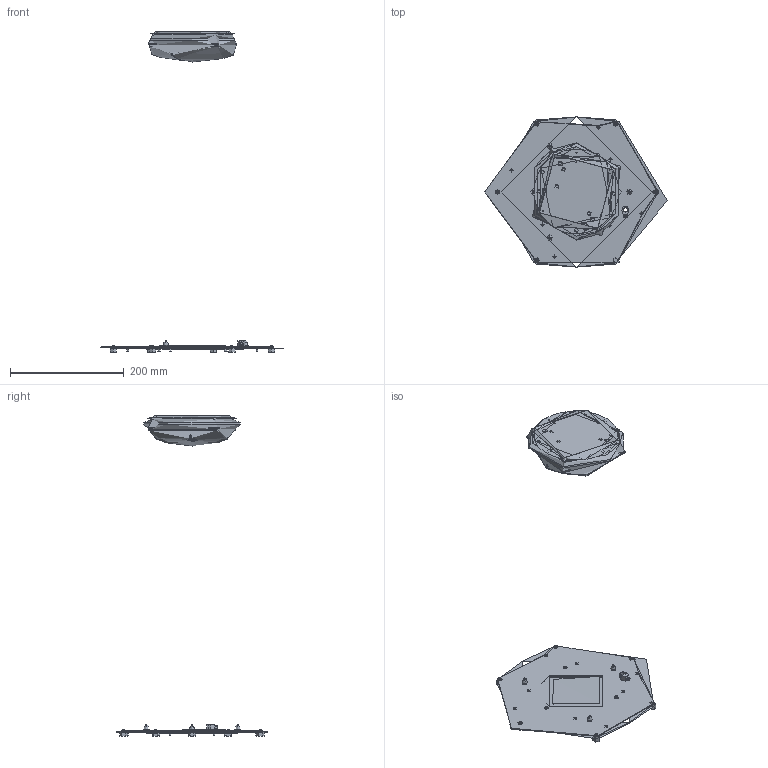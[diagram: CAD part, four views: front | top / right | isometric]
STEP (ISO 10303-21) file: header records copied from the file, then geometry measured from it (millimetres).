
FILE_DESCRIPTION( ( 'Unknown' ), '1' );
FILE_NAME( 'U:/ARCHIVIO TECNICO/ARCHIVIO 3D/8005.stp', 'Unknown', ( 'Unknown' ), ( 'Unknown' ), 'PSStep 17.0.49', 'Unknown', ' ' );
FILE_SCHEMA( ( 'AUTOMOTIVE_DESIGN { 1 0 10303 214 1 1 1 1 }' ) );
Length unit declared in the file: millimetre
Products named in the file (20): O2114-9; O2114-9 (01); O2114-9 (02); 066000055359-oa0; 066000055359_part; Assem1; 151001035064; 155000313064; 210000055013; H1426-9; 150000031064; 063000050351; 150000032064; O1709-9
Assembly tree (37 placements, depth 3):
  Assem1
    151001035064
    155000313064  x3
    210000055013  x8
    H1426-9  x8
    150000031064
    063000050351  x3
    150000032064
    150000032064
    150000032064
    150000032064
    150000032064
    150000032064
    150000032064
    O1709-9
    O2114-9
      O2114-9 (01)
      O2114-9 (02)
    066000055359-oa0
      066000055359_part
Bounding box: 320.73 x 264 x 564.12 mm (x, y, z)
Volume: 303656 mm3; surface area: 465184.6 mm2
Topology: 29 solids, 98 shells, 1493 faces, 3456 edges, 2053 vertices
Faces by surface type: plane 682, cylinder 428, bspline 138, torus 115, sphere 66, cone 49, revolution 9, offset 5, extrusion 1
Full cylindrical faces by diameter (mm): 2 x3, 2.5 x4, 3 x8, 3.413 x1, 3.98 x8, 4 x19, 4.134 x3, 4.5 x10, 4.917 x1, 5 x3, 6 x1, 7 x2, 8.917 x1, 10 x5, 10.25 x1, 12.5 x1, 14 x1, 110 x1, 114 x1, 132 x1, 149.448 x1, 156 x1, 160 x1, 171.15 x1, 174.3 x1, 264 x1
Entity records: 116345 total; most frequent: CARTESIAN_POINT 98280, DIRECTION 2680, ORIENTED_EDGE 2368, EDGE_CURVE 1334, VERTEX_POINT 1006, AXIS2_PLACEMENT_3D 968, EDGE_LOOP 818, VECTOR 732
